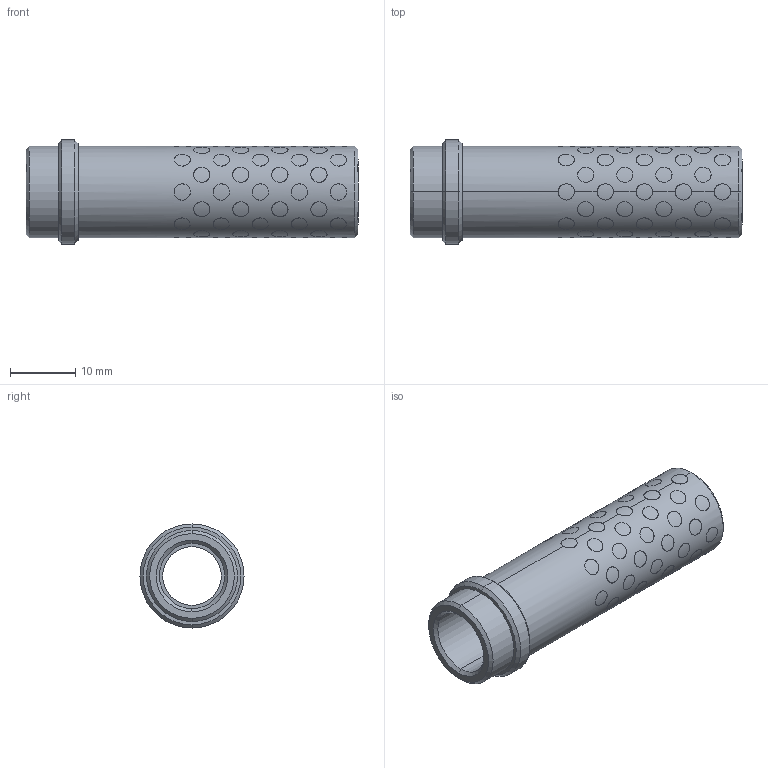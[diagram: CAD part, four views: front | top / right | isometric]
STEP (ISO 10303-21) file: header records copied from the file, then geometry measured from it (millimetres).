
FILE_DESCRIPTION((''),'2;1');
FILE_NAME('G31209046','2018-01-25T',('MANU'),(''),'PRO/ENGINEER BY PARAMETRIC TECHNOLOGY CORPORATION, 2012130','PRO/ENGINEER BY PARAMETRIC TECHNOLOGY CORPORATION, 2012130','');
FILE_SCHEMA(('CONFIG_CONTROL_DESIGN'));
Length unit declared in the file: millimetre
Products named in the file (1): G31209046
Bounding box: 51 x 16 x 16 mm (x, y, z)
Volume: 4392.9 mm3; surface area: 6817.7 mm2
Topology: 73 solids, 73 shells, 459 faces, 978 edges, 648 vertices
Faces by surface type: cylinder 442, cone 12, plane 5
Entity records: 20638 total; most frequent: CARTESIAN_POINT 11661, ORIENTED_EDGE 1956, DIRECTION 1312, EDGE_CURVE 978, VERTEX_POINT 648, B_SPLINE_CURVE_WITH_KNOTS 616, EDGE_LOOP 588, AXIS2_PLACEMENT_3D 491
